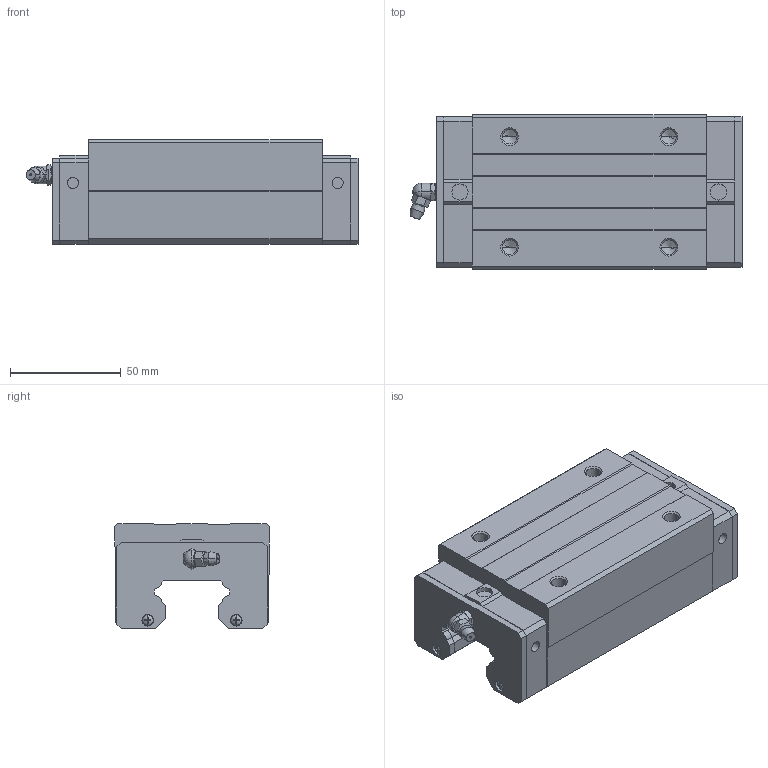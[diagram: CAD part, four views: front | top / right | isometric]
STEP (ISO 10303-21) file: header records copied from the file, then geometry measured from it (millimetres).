
FILE_DESCRIPTION(('starvars output'),'2;1');
FILE_NAME('cv20190625223510000108458.stp','22:35:10 2019/06/25',( 'Thomas Industrial Network Germany GmbH'),( 'Thomas Industrial Network Germany GmbH'),'unknown preprocess','ACIS' ,'unknown authorization');
FILE_SCHEMA(('CONFIG_CONTROL_DESIGN {UNKNOWN IMPLEMENTATION LEVEL}'));
Length unit declared in the file: millimetre
Products named in the file (10): PRODUCT_ID_1; PRODUCT_ID_2; PRODUCT_ID_3; PRODUCT_ID_4; PRODUCT_ID_5; PRODUCT_ID_6; PRODUCT_ID_7; PRODUCT_ID_8; PRODUCT_ID_9; PRODUCT_ID_10
Bounding box: 150.2 x 70 x 47.5 mm (x, y, z)
Volume: 347852.6 mm3; surface area: 62613.5 mm2
Topology: 10 solids, 10 shells, 387 faces, 978 edges, 620 vertices
Faces by surface type: plane 240, cylinder 71, cone 64, sphere 12
Entity records: 11111 total; most frequent: ORIENTED_EDGE 1932, CARTESIAN_POINT 1813, DIRECTION 1513, EDGE_CURVE 966, VECTOR 621, LINE 621, VERTEX_POINT 620, AXIS2_PLACEMENT_3D 446
